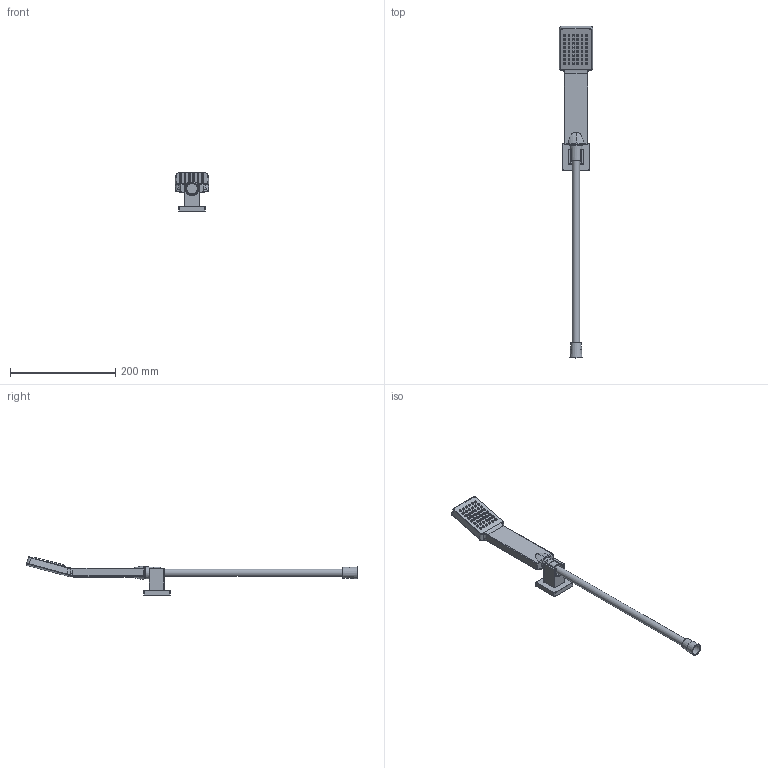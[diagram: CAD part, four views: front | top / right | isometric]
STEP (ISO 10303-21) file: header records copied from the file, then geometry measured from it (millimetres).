
FILE_DESCRIPTION(/* description */ (''),/* implementation_level */ '2;1');
FILE_NAME(/* name */ 'D:\Omnires\Export_Omnires\rys_step\5908223783814_stp.stp',/* time_stamp */ '2020-07-27T14:04:37+02:00',/* author */ (''),/* organization */ (''),/* preprocessor_version */ 'ST-DEVELOPER v18.1',/* originating_system */ 'Autodesk Inventor 2020',/* authorisation */ '');
FILE_SCHEMA (('AUTOMOTIVE_DESIGN { 1 0 10303 214 3 1 1 }'));
Length unit declared in the file: millimetre
Products named in the file (1): 5908223783814_dwg
Bounding box: 64.46 x 630.34 x 72.26 mm (x, y, z)
Surface area: 73400.1 mm2 (no closed solid volume)
Topology: 0 solids, 6 shells, 1091 faces, 2525 edges, 1347 vertices
Faces by surface type: cylinder 499, plane 329, sphere 202, bspline 46, torus 8, cone 7
Full cylindrical faces by diameter (mm): 1.8 x48, 8 x1, 14 x1, 14.2 x1, 16.938 x5, 19.791 x4, 20 x2
Entity records: 37043 total; most frequent: CARTESIAN_POINT 12073, DIRECTION 5406, ORIENTED_EDGE 4648, EDGE_CURVE 2324, AXIS2_PLACEMENT_3D 2133, VERTEX_POINT 1347, EDGE_LOOP 1193, LINE 1140
